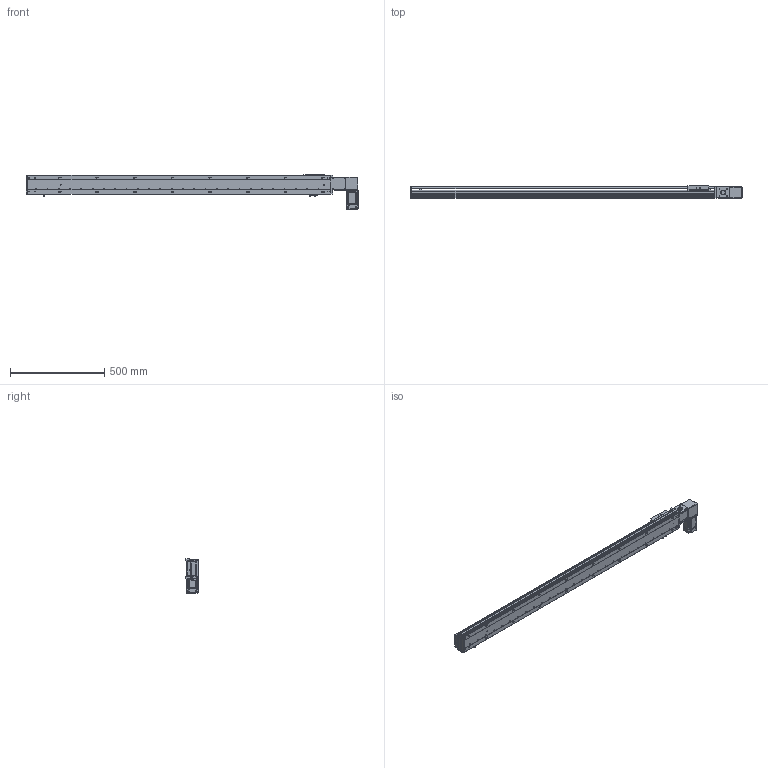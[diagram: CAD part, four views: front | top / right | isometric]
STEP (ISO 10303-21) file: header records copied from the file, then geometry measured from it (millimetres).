
FILE_DESCRIPTION (( 'STEP AP203' ), '1' );
FILE_NAME ('RY100-T-300-LK.SLDASM_1400.step', '2024-04-25T05:38:04', ( '盈信电脑' ), ( '东莞市道滘镇水果街19号' ), 'SwSTEP 2.0', 'SolidWorks 2016', '' );
FILE_SCHEMA (( 'CONFIG_CONTROL_DESIGN' ));
Length unit declared in the file: millimetre
Products named in the file (13): RY100-T-300-RK倰第奻裔_1400; RY100-T翋肮祭謫裔啣2; 滅袉蝶18-10; RY80-T肮祭謫俋欶; 1; RY100-T肮祭謫臏賑輸; RY100綴裔啣; RY100-T-300-LK.SLDASM_1400; 覜茼ん672; RY100-T-300-RK倰第菁釱_1400; RY100-T左右折电机安装板; RY100-T肮祭謫翋盓傅釱; RY100俋离覜茼え
Assembly tree (16 placements, depth 2):
  RY100-T-300-LK.SLDASM_1400
    RY100-T-300-RK倰第菁釱_1400
    RY100-T-300-RK倰第奻裔_1400
    RY100-T肮祭謫臏賑輸
    RY100綴裔啣
    覜茼ん672  x3
    RY100俋离覜茼え
    RY100-T肮祭謫翋盓傅釱
    滅袉蝶18-10  x2
    RY100-T翋肮祭謫裔啣2  x2
    RY80-T肮祭謫俋欶
    RY100-T左右折电机安装板
    1
Bounding box: 1764 x 66 x 182.5 mm (x, y, z)
Volume: 3252243.4 mm3; surface area: 1355670.5 mm2
Topology: 16 solids, 16 shells, 2186 faces, 6110 edges, 3972 vertices
Faces by surface type: plane 1178, cylinder 797, cone 133, bspline 78
Entity records: 70018 total; most frequent: CARTESIAN_POINT 17073, ORIENTED_EDGE 10956, DIRECTION 10394, EDGE_CURVE 5478, VERTEX_POINT 3608, LINE 3526, VECTOR 3526, AXIS2_PLACEMENT_3D 3434
